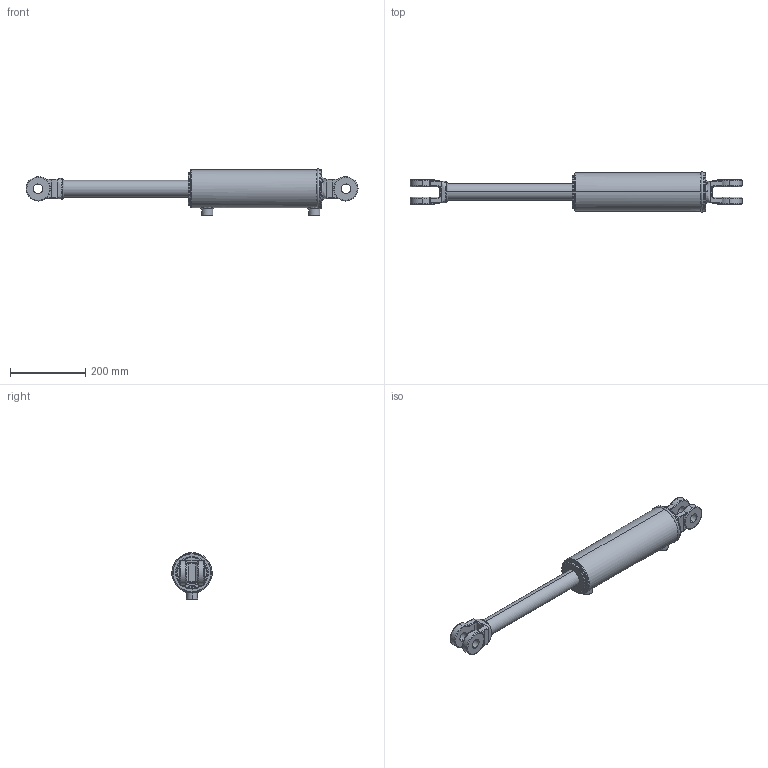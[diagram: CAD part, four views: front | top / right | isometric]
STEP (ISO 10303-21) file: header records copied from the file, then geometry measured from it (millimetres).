
FILE_DESCRIPTION (( 'STEP AP203' ), '1' );
FILE_NAME ('CL-CL350175x254 (10) extended.STEP', '2014-11-22T16:27:25', ( '' ), ( '' ), 'SwSTEP 2.0', 'SolidWorks 2014', '' );
FILE_SCHEMA (( 'CONFIG_CONTROL_DESIGN' ));
Length unit declared in the file: millimetre
Products named in the file (4): CL-CL300150x  body_3.5x10; 3 in ext circlip; SPARE 6_10x1.75; CL-CL350175x254 (10) extended
Assembly tree (3 placements, depth 2):
  CL-CL350175x254 (10) extended
    CL-CL300150x  body_3.5x10
    3 in ext circlip
    SPARE 6_10x1.75
Bounding box: 882.39 x 107.32 x 124.5 mm (x, y, z)
Volume: 3419644.4 mm3; surface area: 283616.4 mm2
Topology: 3 solids, 3 shells, 211 faces, 518 edges, 319 vertices
Faces by surface type: cylinder 91, bspline 59, plane 38, torus 15, cone 8
Entity records: 11321 total; most frequent: CARTESIAN_POINT 6234, ORIENTED_EDGE 1028, DIRECTION 941, EDGE_CURVE 514, AXIS2_PLACEMENT_3D 393, VERTEX_POINT 319, CIRCLE 235, EDGE_LOOP 233
